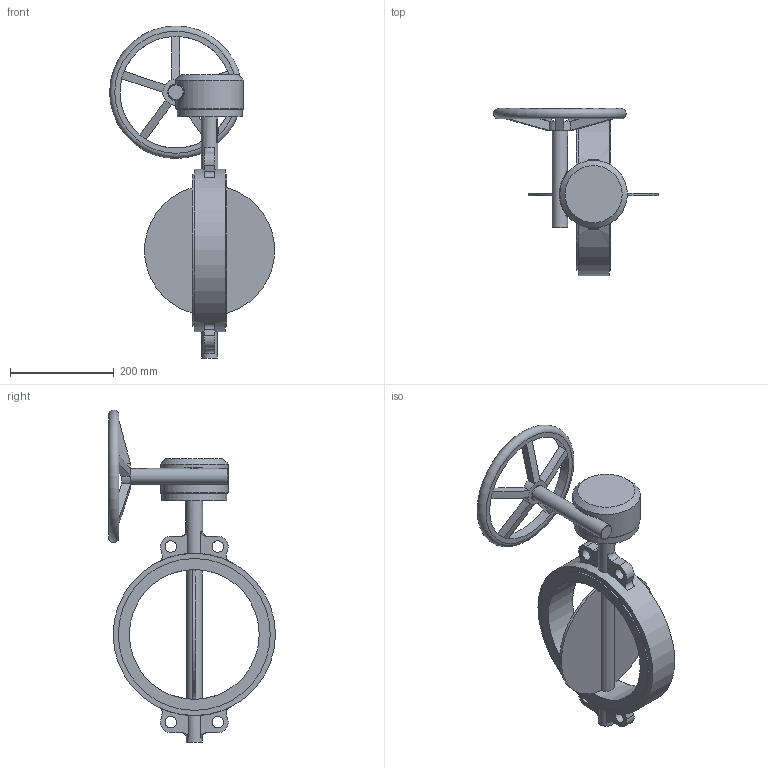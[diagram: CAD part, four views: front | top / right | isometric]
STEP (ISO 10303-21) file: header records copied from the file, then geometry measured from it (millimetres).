
FILE_DESCRIPTION(('STEP AP203'), '1');
FILE_NAME('青蜮铕 017W.Y_DN250_PN10_疱潴牝铕', '', ('UNSPECIFIED'), ('UNSPECIFIED'), 'ASCON STEP Converter 1.6', 'ASCON Math Kernel', '');
FILE_SCHEMA(('CONFIG_CONTROL_DESIGN'));
Length unit declared in the file: millimetre
Bounding box: 317.25 x 321.2 x 639 mm (x, y, z)
Volume: 3926596.9 mm3; surface area: 466583.4 mm2
Topology: 1 solids, 1 shells, 138 faces, 335 edges, 208 vertices
Faces by surface type: plane 64, cylinder 45, cone 19, torus 8, bspline 2
Full cylindrical faces by diameter (mm): 10.106 x4, 12 x4, 22 x4, 30 x3, 32 x1, 125 x1, 130 x1, 215 x1, 250 x1, 292.4 x2, 312.4 x1
Entity records: 7191 total; most frequent: CARTESIAN_POINT 2928, DIRECTION 668, ORIENTED_EDGE 586, EDGE_CURVE 293, AXIS2_PLACEMENT_3D 282, EDGE_LOOP 207, VERTEX_POINT 204, CIRCLE 145
